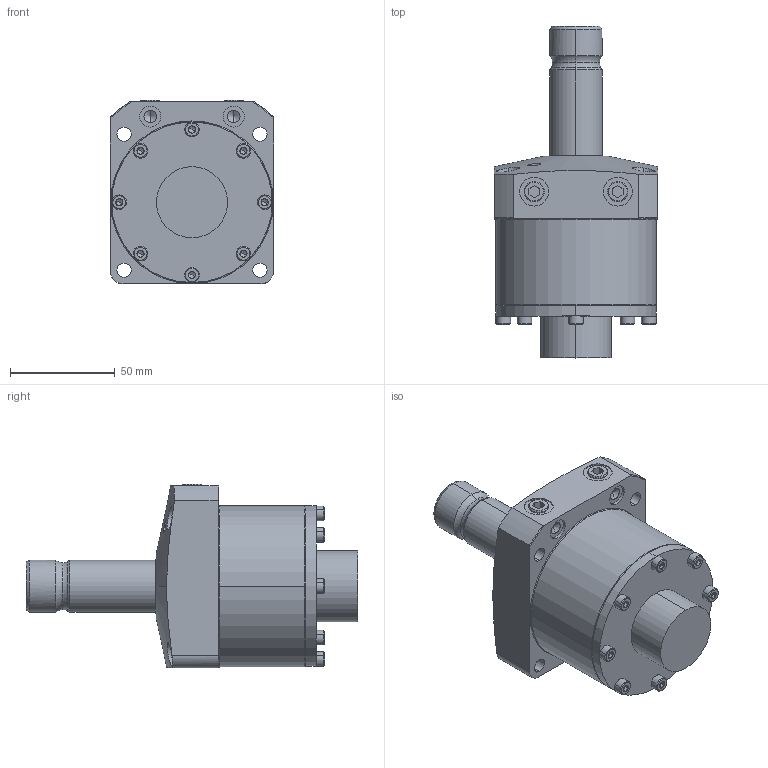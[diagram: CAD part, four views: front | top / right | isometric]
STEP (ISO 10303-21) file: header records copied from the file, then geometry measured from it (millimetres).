
FILE_DESCRIPTION (( 'STEP AP203' ), '1' );
FILE_NAME ('WHA0630-2GL-F.step', '2010-04-14T09:47:07', ( ' ' ), ( ' ' ), 'SwSTEP 2.0', 'SolidWorks 2009', '' );
FILE_SCHEMA (( 'CONFIG_CONTROL_DESIGN' ));
Length unit declared in the file: millimetre
Products named in the file (6): WHA0630_楓羔絻3WH100024-00; 6妏寠晅无倌_M4_10; WHA0630-2GL-F; WHA0630_槭暌溒3WH100021-00; WHA0630-F丒郫霓; R1／8ﾌﾟﾗｸﾞ
Assembly tree (13 placements, depth 2):
  WHA0630-2GL-F
    6妏寠晅无倌_M4_10  x8
    R1／8ﾌﾟﾗｸﾞ  x2
    WHA0630-F丒郫霓
    WHA0630_槭暌溒3WH100021-00
    WHA0630_楓羔絻3WH100024-00
Bounding box: 78 x 158.8 x 87.8 mm (x, y, z)
Volume: 447279.5 mm3; surface area: 61466.6 mm2
Topology: 13 solids, 13 shells, 434 faces, 862 edges, 470 vertices
Faces by surface type: plane 173, cone 130, cylinder 121, torus 10
Entity records: 7290 total; most frequent: CARTESIAN_POINT 1788, DIRECTION 1055, ORIENTED_EDGE 896, EDGE_CURVE 448, AXIS2_PLACEMENT_3D 437, VERTEX_POINT 277, EDGE_LOOP 255, CIRCLE 217
